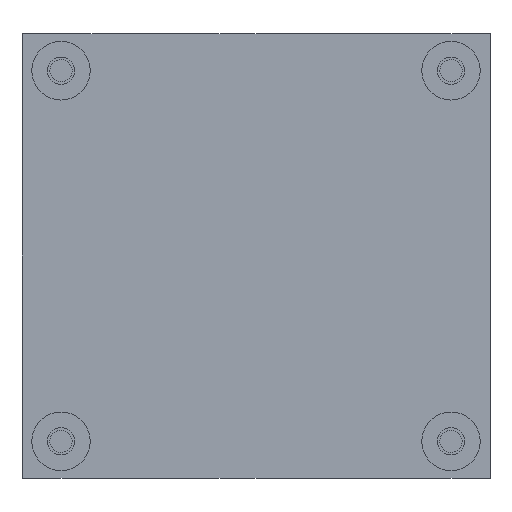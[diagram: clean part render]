
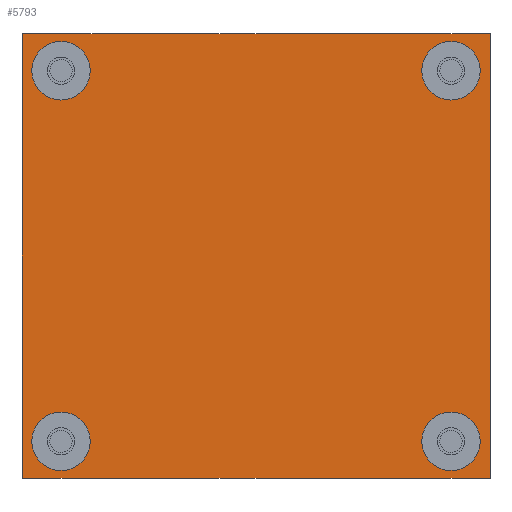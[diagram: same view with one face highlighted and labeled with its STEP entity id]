
A CAD part, front view. The second image highlights one B-rep face of the part: STEP entity #5793.
In plain terms, the highlighted planar face has unit normal (0, -1, 0).
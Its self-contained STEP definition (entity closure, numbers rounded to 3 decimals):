
#104 = CIRCLE ( 'NONE', #3075, 3.81 ) ;
#297 = CARTESIAN_POINT ( 'NONE',  ( 32.55, 27.95, 77.786 ) ) ;
#441 = DIRECTION ( 'NONE',  ( 0., 1., 0. ) ) ;
#618 = AXIS2_PLACEMENT_3D ( 'NONE', #24293, #7927, #20553 ) ;
#719 = ORIENTED_EDGE ( 'NONE', *, *, #14532, .F. ) ;
#888 = VERTEX_POINT ( 'NONE', #297 ) ;
#1060 = DIRECTION ( 'NONE',  ( 0., 1., 0. ) ) ;
#1163 = DIRECTION ( 'NONE',  ( 0., 1., 0. ) ) ;
#1287 = FACE_OUTER_BOUND ( 'NONE', #22363, .T. ) ;
#1719 = CARTESIAN_POINT ( 'NONE',  ( -19.52, 27.95, 24.7 ) ) ;
#1723 = VERTEX_POINT ( 'NONE', #2073 ) ;
#1772 = CARTESIAN_POINT ( 'NONE',  ( -19.52, 27.95, 24.7 ) ) ;
#1852 = ORIENTED_EDGE ( 'NONE', *, *, #8875, .F. ) ;
#2073 = CARTESIAN_POINT ( 'NONE',  ( -10.63, 27.95, 29.526 ) ) ;
#2929 = VERTEX_POINT ( 'NONE', #2989 ) ;
#2989 = CARTESIAN_POINT ( 'NONE',  ( 41.44, 27.95, 82.612 ) ) ;
#3029 = CARTESIAN_POINT ( 'NONE',  ( 40.17, 27.95, 77.786 ) ) ;
#3075 = AXIS2_PLACEMENT_3D ( 'NONE', #16754, #22487, #3968 ) ;
#3154 = ORIENTED_EDGE ( 'NONE', *, *, #25199, .T. ) ;
#3234 = EDGE_LOOP ( 'NONE', ( #15792, #4549 ) ) ;
#3451 = CIRCLE ( 'NONE', #13265, 3.81 ) ;
#3714 = CARTESIAN_POINT ( 'NONE',  ( 41.44, 27.95, 24.7 ) ) ;
#3968 = DIRECTION ( 'NONE',  ( 1., 0., 0. ) ) ;
#4065 = CIRCLE ( 'NONE', #618, 3.81 ) ;
#4197 = DIRECTION ( 'NONE',  ( 0., 0., 1. ) ) ;
#4382 = CARTESIAN_POINT ( 'NONE',  ( -19.52, 27.95, 82.612 ) ) ;
#4393 = CIRCLE ( 'NONE', #22673, 3.81 ) ;
#4510 = EDGE_CURVE ( 'NONE', #888, #21989, #9960, .T. ) ;
#4549 = ORIENTED_EDGE ( 'NONE', *, *, #18753, .T. ) ;
#4715 = DIRECTION ( 'NONE',  ( 1., 0., 0. ) ) ;
#4717 = VECTOR ( 'NONE', #4197, 1000. ) ;
#4744 = AXIS2_PLACEMENT_3D ( 'NONE', #21120, #441, #8608 ) ;
#4877 = ORIENTED_EDGE ( 'NONE', *, *, #14079, .T. ) ;
#5089 = CARTESIAN_POINT ( 'NONE',  ( -10.63, 27.95, 77.786 ) ) ;
#5121 = CARTESIAN_POINT ( 'NONE',  ( 36.36, 27.95, 77.786 ) ) ;
#5148 = ORIENTED_EDGE ( 'NONE', *, *, #15625, .F. ) ;
#5793 = ADVANCED_FACE ( 'NONE', ( #13601, #21588, #19568, #11477, #1287 ), #21304, .F. ) ;
#6336 = CARTESIAN_POINT ( 'NONE',  ( 41.44, 27.95, 24.7 ) ) ;
#6750 = CARTESIAN_POINT ( 'NONE',  ( -19.52, 27.95, 24.7 ) ) ;
#7927 = DIRECTION ( 'NONE',  ( 0., 1., 0. ) ) ;
#8581 = VERTEX_POINT ( 'NONE', #14248 ) ;
#8608 = DIRECTION ( 'NONE',  ( 1., 0., 0. ) ) ;
#8629 = EDGE_CURVE ( 'NONE', #21989, #888, #25781, .T. ) ;
#8875 = EDGE_CURVE ( 'NONE', #2929, #26219, #24580, .T. ) ;
#9087 = DIRECTION ( 'NONE',  ( 1., 0., 0. ) ) ;
#9109 = VECTOR ( 'NONE', #24859, 1000. ) ;
#9221 = CARTESIAN_POINT ( 'NONE',  ( -14.44, 27.95, 29.526 ) ) ;
#9315 = DIRECTION ( 'NONE',  ( 1., 0., 0. ) ) ;
#9960 = CIRCLE ( 'NONE', #23124, 3.81 ) ;
#10172 = VERTEX_POINT ( 'NONE', #24052 ) ;
#10764 = DIRECTION ( 'NONE',  ( 1., 0., 0. ) ) ;
#11105 = DIRECTION ( 'NONE',  ( 0., 1., 0. ) ) ;
#11352 = CARTESIAN_POINT ( 'NONE',  ( -19.52, 27.95, 24.7 ) ) ;
#11373 = VECTOR ( 'NONE', #21918, 1000. ) ;
#11443 = VERTEX_POINT ( 'NONE', #1719 ) ;
#11477 = FACE_BOUND ( 'NONE', #16661, .T. ) ;
#12124 = EDGE_CURVE ( 'NONE', #22321, #10172, #4393, .T. ) ;
#12202 = LINE ( 'NONE', #1772, #4717 ) ;
#12417 = VERTEX_POINT ( 'NONE', #24281 ) ;
#12418 = EDGE_LOOP ( 'NONE', ( #17801, #20270 ) ) ;
#12807 = ORIENTED_EDGE ( 'NONE', *, *, #12124, .T. ) ;
#12847 = VERTEX_POINT ( 'NONE', #5089 ) ;
#13002 = AXIS2_PLACEMENT_3D ( 'NONE', #20745, #21244, #10764 ) ;
#13265 = AXIS2_PLACEMENT_3D ( 'NONE', #20441, #1060, #9087 ) ;
#13497 = DIRECTION ( 'NONE',  ( 1., 0., 0. ) ) ;
#13552 = ORIENTED_EDGE ( 'NONE', *, *, #16681, .T. ) ;
#13601 = FACE_BOUND ( 'NONE', #25973, .T. ) ;
#13895 = DIRECTION ( 'NONE',  ( 0., 1., 0. ) ) ;
#14079 = EDGE_CURVE ( 'NONE', #10172, #22321, #104, .T. ) ;
#14248 = CARTESIAN_POINT ( 'NONE',  ( -18.25, 27.95, 77.786 ) ) ;
#14268 = LINE ( 'NONE', #4382, #18261 ) ;
#14532 = EDGE_CURVE ( 'NONE', #26219, #11443, #16716, .T. ) ;
#15437 = AXIS2_PLACEMENT_3D ( 'NONE', #11352, #1163, #9315 ) ;
#15467 = DIRECTION ( 'NONE',  ( 1., 0., 0. ) ) ;
#15625 = EDGE_CURVE ( 'NONE', #20005, #2929, #14268, .T. ) ;
#15715 = CARTESIAN_POINT ( 'NONE',  ( -19.52, 27.95, 82.612 ) ) ;
#15792 = ORIENTED_EDGE ( 'NONE', *, *, #17637, .T. ) ;
#16139 = EDGE_CURVE ( 'NONE', #11443, #20005, #12202, .T. ) ;
#16225 = DIRECTION ( 'NONE',  ( 1., 0., 0. ) ) ;
#16661 = EDGE_LOOP ( 'NONE', ( #12807, #4877 ) ) ;
#16681 = EDGE_CURVE ( 'NONE', #12417, #1723, #18781, .T. ) ;
#16716 = LINE ( 'NONE', #6750, #9109 ) ;
#16754 = CARTESIAN_POINT ( 'NONE',  ( 36.36, 27.95, 29.526 ) ) ;
#17637 = EDGE_CURVE ( 'NONE', #8581, #12847, #3451, .T. ) ;
#17801 = ORIENTED_EDGE ( 'NONE', *, *, #4510, .T. ) ;
#18261 = VECTOR ( 'NONE', #16225, 1000. ) ;
#18753 = EDGE_CURVE ( 'NONE', #12847, #8581, #4065, .T. ) ;
#18781 = CIRCLE ( 'NONE', #4744, 3.81 ) ;
#18849 = AXIS2_PLACEMENT_3D ( 'NONE', #9221, #11105, #4715 ) ;
#19568 = FACE_BOUND ( 'NONE', #12418, .T. ) ;
#20005 = VERTEX_POINT ( 'NONE', #15715 ) ;
#20270 = ORIENTED_EDGE ( 'NONE', *, *, #8629, .T. ) ;
#20296 = CARTESIAN_POINT ( 'NONE',  ( 32.55, 27.95, 29.526 ) ) ;
#20441 = CARTESIAN_POINT ( 'NONE',  ( -14.44, 27.95, 77.786 ) ) ;
#20553 = DIRECTION ( 'NONE',  ( 1., 0., 0. ) ) ;
#20745 = CARTESIAN_POINT ( 'NONE',  ( 36.36, 27.95, 77.786 ) ) ;
#21120 = CARTESIAN_POINT ( 'NONE',  ( -14.44, 27.95, 29.526 ) ) ;
#21244 = DIRECTION ( 'NONE',  ( 0., 1., 0. ) ) ;
#21304 = PLANE ( 'NONE',  #15437 ) ;
#21588 = FACE_BOUND ( 'NONE', #3234, .T. ) ;
#21918 = DIRECTION ( 'NONE',  ( 0., 0., -1. ) ) ;
#21989 = VERTEX_POINT ( 'NONE', #3029 ) ;
#22321 = VERTEX_POINT ( 'NONE', #20296 ) ;
#22363 = EDGE_LOOP ( 'NONE', ( #25328, #719, #1852, #5148 ) ) ;
#22487 = DIRECTION ( 'NONE',  ( 0., 1., 0. ) ) ;
#22673 = AXIS2_PLACEMENT_3D ( 'NONE', #23866, #13895, #13497 ) ;
#23124 = AXIS2_PLACEMENT_3D ( 'NONE', #5121, #25476, #15467 ) ;
#23866 = CARTESIAN_POINT ( 'NONE',  ( 36.36, 27.95, 29.526 ) ) ;
#24052 = CARTESIAN_POINT ( 'NONE',  ( 40.17, 27.95, 29.526 ) ) ;
#24281 = CARTESIAN_POINT ( 'NONE',  ( -18.25, 27.95, 29.526 ) ) ;
#24293 = CARTESIAN_POINT ( 'NONE',  ( -14.44, 27.95, 77.786 ) ) ;
#24580 = LINE ( 'NONE', #6336, #11373 ) ;
#24859 = DIRECTION ( 'NONE',  ( -1., 0., 0. ) ) ;
#25199 = EDGE_CURVE ( 'NONE', #1723, #12417, #26067, .T. ) ;
#25328 = ORIENTED_EDGE ( 'NONE', *, *, #16139, .F. ) ;
#25476 = DIRECTION ( 'NONE',  ( 0., 1., 0. ) ) ;
#25781 = CIRCLE ( 'NONE', #13002, 3.81 ) ;
#25973 = EDGE_LOOP ( 'NONE', ( #13552, #3154 ) ) ;
#26067 = CIRCLE ( 'NONE', #18849, 3.81 ) ;
#26219 = VERTEX_POINT ( 'NONE', #3714 ) ;
